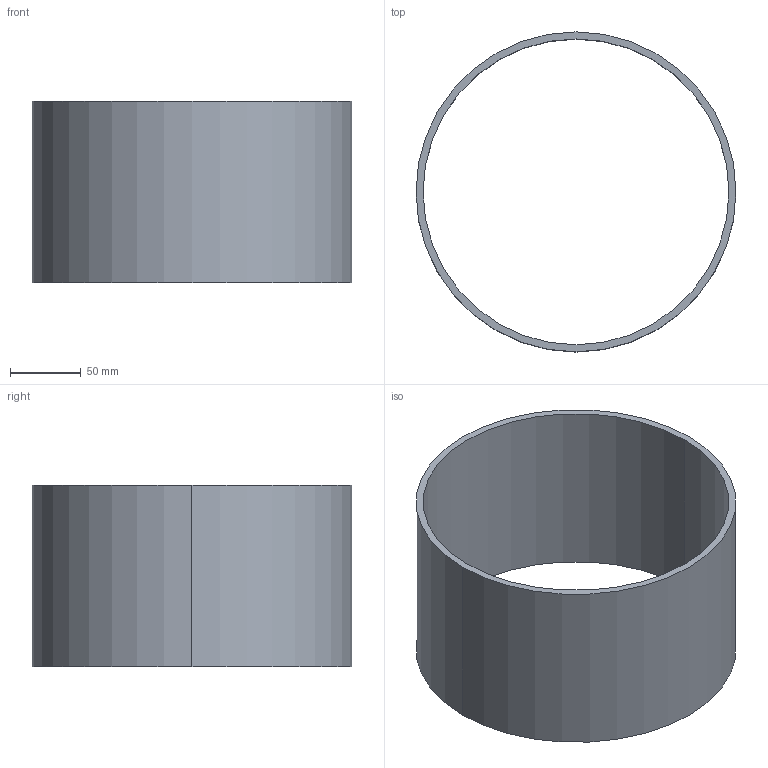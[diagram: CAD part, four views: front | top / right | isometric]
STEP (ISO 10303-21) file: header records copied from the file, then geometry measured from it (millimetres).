
FILE_DESCRIPTION(('CATIA V5 STEP Exchange'),'2;1');
FILE_NAME('C:\_Andres\UNIVERSIDAD\IQS\ASIGNATURAS\DAO\EXF\EXF-15161c\1original\Martínez_Perelló_Ej07-tabla_v13.stp','2016-03-04T21:16:34+00:00',('none'),('none'),'CATIA Version 5 Release 20 SP 1 (IN-10)','CATIA V5 STEP AP203','none');
FILE_SCHEMA(('CONFIG_CONTROL_DESIGN'));
Length unit declared in the file: millimetre
Products named in the file (1): Martínez_Perelló_Ej07-tabla_v13
Bounding box: 226 x 226 x 128 mm (x, y, z)
Volume: 444346.9 mm3; surface area: 184681.7 mm2
Topology: 1 solids, 1 shells, 6 faces, 13 edges, 10 vertices
Faces by surface type: cylinder 4, plane 2
Entity records: 208 total; most frequent: CARTESIAN_POINT 29, ORIENTED_EDGE 24, DIRECTION 23, AXIS2_PLACEMENT_3D 14, EDGE_CURVE 12, CIRCLE 8, EDGE_LOOP 8, VERTEX_POINT 8
